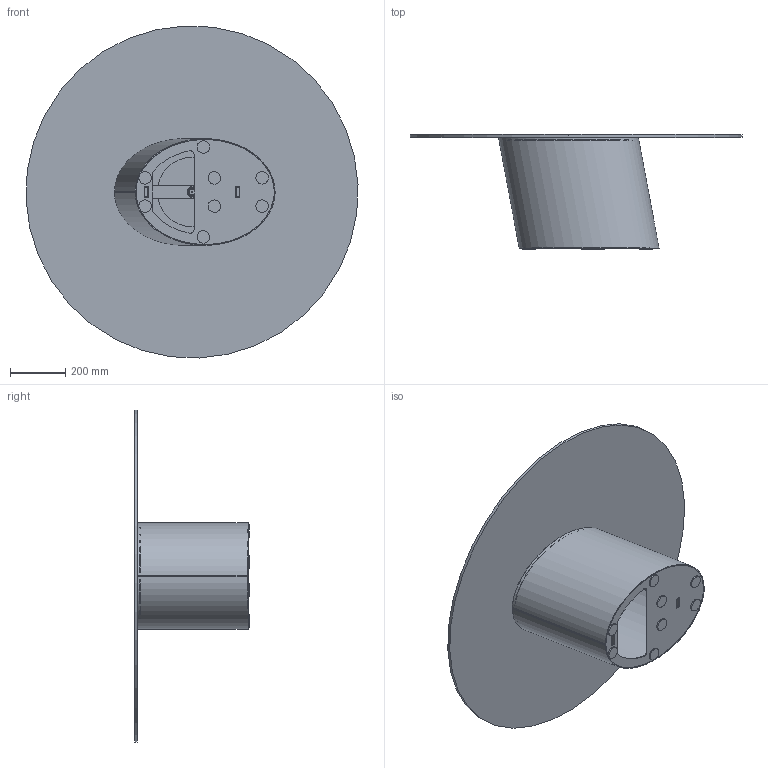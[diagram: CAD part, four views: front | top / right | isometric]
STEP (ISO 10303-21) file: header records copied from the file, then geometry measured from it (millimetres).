
FILE_DESCRIPTION (( 'STEP AP203' ), '1' );
FILE_NAME ('D214G.STEP', '2024-08-07T11:24:13', ( '' ), ( '' ), 'SwSTEP 2.0', 'SolidWorks 2022', '' );
FILE_SCHEMA (( 'CONFIG_CONTROL_DESIGN' ));
Length unit declared in the file: millimetre
Products named in the file (6): C1XCRMXX-00-piani Rotondi Cristallo_C14 D.120cm; Parte2^Dxxxx-00-DORADO LOW; D2B000001-00-BASAMENTO DORADO LOW H420_Default<A macchina>; CXXCRXX-00-Piani Rotondi in Cristallo CON PIASTRA_C14P PIANO CRISTALLO D.120cm; D214G; P0000003-00-STAFFA DI FISSAGGIO DIAMETRO 250_P0000003-250mm normale
Assembly tree (12 placements, depth 3):
  D214G
    D2B000001-00-BASAMENTO DORADO LOW H420_Default<A macchina>
    Parte2^Dxxxx-00-DORADO LOW  x8
    CXXCRXX-00-Piani Rotondi in Cristallo CON PIASTRA_C14P PIANO CRISTALLO D.120cm
      C1XCRMXX-00-piani Rotondi Cristallo_C14 D.120cm
      P0000003-00-STAFFA DI FISSAGGIO DIAMETRO 250_P0000003-250mm normale
Bounding box: 1198.81 x 415 x 1198.81 mm (x, y, z)
Volume: 13859011.8 mm3; surface area: 4084086.1 mm2
Topology: 17 solids, 17 shells, 179 faces, 433 edges, 288 vertices
Faces by surface type: plane 84, cylinder 75, bspline 14, cone 6
Entity records: 8488 total; most frequent: CARTESIAN_POINT 3911, ORIENTED_EDGE 782, DIRECTION 771, EDGE_CURVE 391, AXIS2_PLACEMENT_3D 279, VERTEX_POINT 260, VECTOR 213, LINE 213
